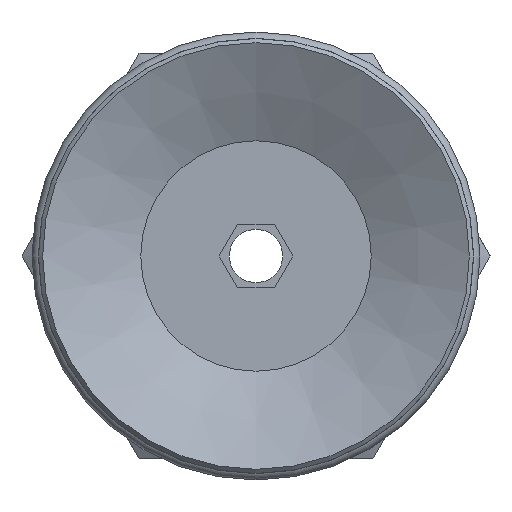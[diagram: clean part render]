
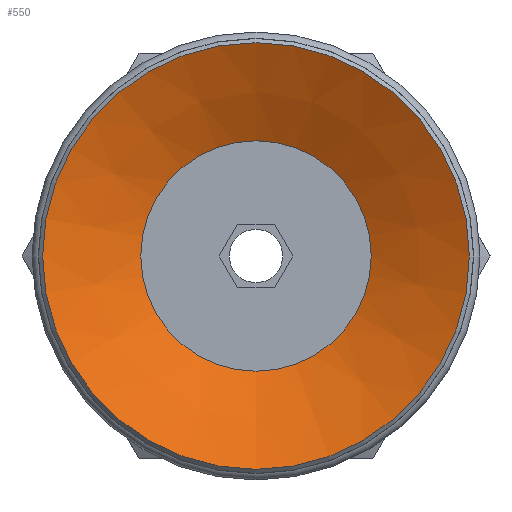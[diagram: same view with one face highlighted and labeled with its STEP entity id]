
A CAD part, front view. The second image highlights one B-rep face of the part: STEP entity #550.
In plain terms, the highlighted conical face has half-angle 63 degrees and reference radius 5.4 mm.
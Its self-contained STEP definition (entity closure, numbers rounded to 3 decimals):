
#550=ADVANCED_FACE('',(#792,#793),#794,.F.);
#792=FACE_BOUND('',#1051,.T.);
#793=FACE_OUTER_BOUND('',#1052,.T.);
#794=CONICAL_SURFACE('',#1053,5.4,1.1);
#1051=EDGE_LOOP('',(#1713));
#1052=EDGE_LOOP('',(#1714));
#1053=AXIS2_PLACEMENT_3D('',#1715,#1716,#1717);
#1713=ORIENTED_EDGE('',*,*,#1937,.F.);
#1714=ORIENTED_EDGE('',*,*,#1936,.T.);
#1715=CARTESIAN_POINT('',(0.0,5.518,0.0));
#1716=DIRECTION('',(-0.0,-1.0,0.));
#1717=DIRECTION('',(0.0,0.,-1.0));
#1936=EDGE_CURVE('',#2244,#2244,#2245,.T.);
#1937=EDGE_CURVE('',#2246,#2246,#2247,.T.);
#2244=VERTEX_POINT('',#2948);
#2245=CIRCLE('',#2949,10.0);
#2246=VERTEX_POINT('',#2950);
#2247=CIRCLE('',#2951,5.4);
#2948=CARTESIAN_POINT('',(0.0,3.175,-10.0));
#2949=AXIS2_PLACEMENT_3D('',#3242,#3243,#3244);
#2950=CARTESIAN_POINT('',(0.0,5.518,-5.4));
#2951=AXIS2_PLACEMENT_3D('',#3245,#3246,#3247);
#3242=CARTESIAN_POINT('',(0.0,3.175,0.0));
#3243=DIRECTION('',(0.0,-1.0,0.));
#3244=DIRECTION('',(0.0,0.,-1.0));
#3245=CARTESIAN_POINT('',(0.0,5.518,0.0));
#3246=DIRECTION('',(0.0,-1.0,0.));
#3247=DIRECTION('',(0.0,0.,-1.0));
